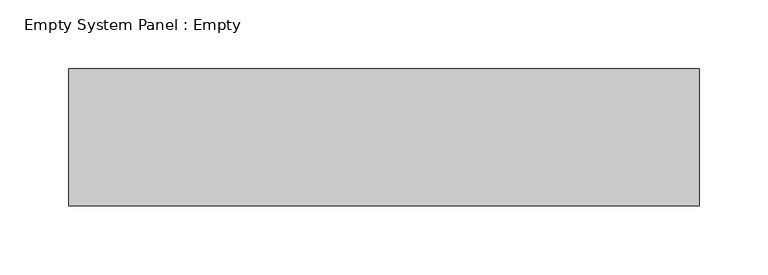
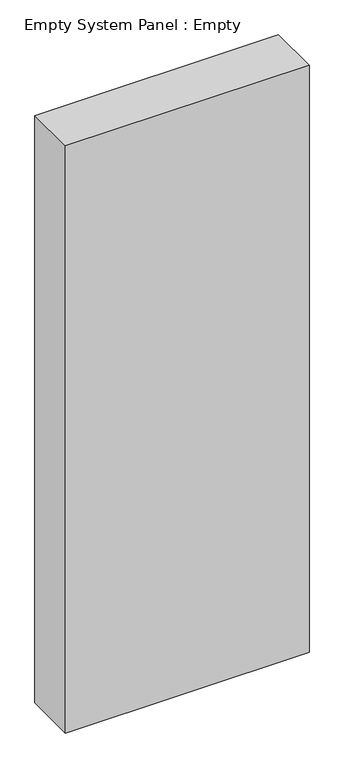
"""IFC4 building model written with IfcOpenShell, lengths in millimetres: plate geometry, Empty System Panel : Empty."""

import ifcopenshell
import ifcopenshell.guid

model = None  # the IFC model being written
_history = None  # IfcOwnerHistory: only IFC2X3 demands one
_inside = {}  # id of a spatial element -> (the spatial element, [elements in it])
_under = {}  # id of a project, library or spatial element -> (it, [spatial elements below it])
_declared = {}  # id of a project -> (the project, [libraries it declares])
_typed = {}  # id of a type object -> (the type object, [elements of that type])
_made_of = {}  # id of a material, layer set ... -> (it, [elements and type objects made of it])


def new_model(schema):
    """Start an empty IFC model of exactly this schema.

    Asked for "IFC4X3", IfcOpenShell would pick the latest addendum, in which some entities
    have other attributes; the version numbers below select the first issue.
    IFC2X3 requires an IfcOwnerHistory on every rooted entity: one is made here for all.
    """
    global model, _history
    if schema == "IFC4X3":
        model = ifcopenshell.file(schema_version=(4, 3, 0, 0))
    else:
        model = ifcopenshell.file(schema=schema)
    _inside.clear()
    _under.clear()
    _declared.clear()
    _typed.clear()
    _made_of.clear()
    _history = None
    if model.schema == "IFC2X3":
        org = make("IfcOrganization", Name="unknown")
        user = make(
            "IfcPersonAndOrganization",
            ThePerson=make("IfcPerson", FamilyName="unknown"),
            TheOrganization=org,
        )
        app = make(
            "IfcApplication",
            ApplicationDeveloper=org,
            Version="unknown",
            ApplicationFullName="unknown",
            ApplicationIdentifier="unknown",
        )
        _history = make(
            "IfcOwnerHistory",
            OwningUser=user,
            OwningApplication=app,
            ChangeAction="ADDED",
            CreationDate=0,
        )
    return model


def make(cls, **values):
    """One entity of the class cls with the attributes given. An attribute that is None is left unset."""
    return model.create_entity(
        cls, **{name: value for name, value in values.items() if value is not None}
    )


def rooted(cls, **values):
    """An entity with a GlobalId (a new one), such as an element, a storey or a relation."""
    return make(cls, GlobalId=ifcopenshell.guid.new(), OwnerHistory=_history, **values)


def si_unit(unit_type, name, prefix=None):
    """IfcSIUnit, for example si_unit("LENGTHUNIT", "METRE", prefix="MILLI")."""
    return make("IfcSIUnit", UnitType=unit_type, Prefix=prefix, Name=name)


def assignment(units):
    """IfcUnitAssignment: the units of a project."""
    return None if units is None else make("IfcUnitAssignment", Units=units)


def point(xyz):
    """IfcCartesianPoint."""
    return None if xyz is None else make("IfcCartesianPoint", Coordinates=xyz)


def direction(xyz):
    """IfcDirection."""
    return None if xyz is None else make("IfcDirection", DirectionRatios=xyz)


def frame(location, z_axis=None, x_axis=None):
    """IfcAxis2Placement3D, a coordinate frame: its origin and axes. An axis left out is left unset."""
    return make(
        "IfcAxis2Placement3D",
        Location=point(location),
        Axis=direction(z_axis),
        RefDirection=direction(x_axis),
    )


def origin():
    """The frame at (0, 0, 0) with its axes left unset."""
    return frame((0.0, 0.0, 0.0))


def origin_with_axes():
    """The frame at (0, 0, 0) with the z axis (0, 0, 1) and the x axis (1, 0, 0) written out."""
    return frame((0.0, 0.0, 0.0), z_axis=(0.0, 0.0, 1.0), x_axis=(1.0, 0.0, 0.0))


def place(relative_to, where):
    """IfcLocalPlacement: puts the frame where relative to a parent placement (None: the world)."""
    return make(
        "IfcLocalPlacement", PlacementRelTo=relative_to, RelativePlacement=where
    )


def context(
    kind, dimensions, precision=None, world=None, true_north=None, identifier=None
):
    """IfcGeometricRepresentationContext, for example the 3D "Model" context."""
    return make(
        "IfcGeometricRepresentationContext",
        ContextIdentifier=identifier,
        ContextType=kind,
        CoordinateSpaceDimension=dimensions,
        Precision=precision,
        WorldCoordinateSystem=world,
        TrueNorth=true_north,
    )


def project(units=None, contexts=None):
    """IfcProject with its units and contexts."""
    return rooted(
        "IfcProject",
        Name="project",
        RepresentationContexts=contexts,
        UnitsInContext=assignment(units),
    )


def spatial(cls, under=None, at=None, **own):
    """A site, building, storey or space (cls), placed at a placement, below another one or the project."""
    s = rooted(cls, ObjectPlacement=at, **own)
    if under is not None:
        _under.setdefault(under.id(), (under, []))[1].append(s)
    return s


def polyline(points):
    """IfcPolyline through the points."""
    return make("IfcPolyline", Points=[point(p) for p in points])


def outline(outer, holes=None, kind="AREA"):
    """IfcArbitraryClosedProfileDef: a profile drawn as a closed curve; with holes, ...WithVoids."""
    if holes is None:
        return make("IfcArbitraryClosedProfileDef", ProfileType=kind, OuterCurve=outer)
    return make(
        "IfcArbitraryProfileDefWithVoids",
        ProfileType=kind,
        OuterCurve=outer,
        InnerCurves=holes,
    )


def extrude(swept, where, along, depth):
    """IfcExtrudedAreaSolid: the profile swept, set in the frame where, extruded along a direction by depth."""
    return make(
        "IfcExtrudedAreaSolid",
        SweptArea=swept,
        Position=where,
        ExtrudedDirection=direction(along),
        Depth=depth,
    )


def shape(context_of_items, identifier, shape_type, items):
    """IfcShapeRepresentation: the items that make up one representation, for example the "Body"."""
    return make(
        "IfcShapeRepresentation",
        ContextOfItems=context_of_items,
        RepresentationIdentifier=identifier,
        RepresentationType=shape_type,
        Items=items,
    )


def source(mapping_origin, context_of_items, identifier, shape_type, items):
    """IfcRepresentationMap: a shape defined once, which mapped items show again and again."""
    return make(
        "IfcRepresentationMap",
        MappingOrigin=mapping_origin,
        MappedRepresentation=shape(context_of_items, identifier, shape_type, items),
    )


def transform(
    local_origin,
    x_axis=None,
    y_axis=None,
    z_axis=None,
    scale=None,
    scale2=None,
    scale3=None,
    uniform=True,
):
    """IfcCartesianTransformationOperator3D, or its non-uniform kind. x_axis, y_axis, z_axis: its Axis1, 2, 3."""
    if uniform:
        return make(
            "IfcCartesianTransformationOperator3D",
            Axis1=direction(x_axis),
            Axis2=direction(y_axis),
            LocalOrigin=point(local_origin),
            Scale=scale,
            Axis3=direction(z_axis),
        )
    return make(
        "IfcCartesianTransformationOperator3DnonUniform",
        Axis1=direction(x_axis),
        Axis2=direction(y_axis),
        LocalOrigin=point(local_origin),
        Scale=scale,
        Axis3=direction(z_axis),
        Scale2=scale2,
        Scale3=scale3,
    )


def mapped(mapping_source, mapping_target):
    """IfcMappedItem: shows the shape of a source again, moved by a transform."""
    return make(
        "IfcMappedItem", MappingSource=mapping_source, MappingTarget=mapping_target
    )


def made_of(thing, what):
    """Note that an element or type object is made of a material, layer set ...; save() writes the relation."""
    if what is not None:
        _made_of.setdefault(what.id(), (what, []))[1].append(thing)
    return thing


def element(
    cls,
    number,
    at=None,
    inside=None,
    cuts=None,
    type_object=None,
    material=None,
    context=None,
    identifier="Body",
    shape_type=None,
    held_by="IfcProductDefinitionShape",
    body=None,
    shapes=None,
    **own,
):
    """One element of the class cls, such as IfcWall. Its Tag is "e" and its number.

    at: its placement. inside: the storey or other place that contains it. cuts: it is an
    opening in that element (IfcRelVoidsElement). A single representation is given by context,
    identifier, shape_type and body (its items); several are given by shapes. held_by: the class
    of the entity that holds the representations. save() writes the other relations.
    """
    e = rooted(cls, Tag="e%d" % number, ObjectPlacement=at, **own)
    if body is not None:
        shapes = [shape(context, identifier, shape_type, body)]
    if shapes is not None:
        e.Representation = make(held_by, Representations=shapes)
    if inside is not None:
        _inside.setdefault(inside.id(), (inside, []))[1].append(e)
    if cuts is not None:
        rooted(
            "IfcRelVoidsElement", RelatingBuildingElement=cuts, RelatedOpeningElement=e
        )
    if type_object is not None:
        _typed.setdefault(type_object.id(), (type_object, []))[1].append(e)
    return made_of(e, material)


def aggregate(whole, parts):
    """IfcRelAggregates: a whole, such as a stair, and the parts it consists of."""
    return rooted("IfcRelAggregates", RelatingObject=whole, RelatedObjects=parts)


def save(model, path):
    """Write the relations noted so far, then the file.

    IfcRelAggregates (storeys below a building ...), IfcRelContainedInSpatialStructure (elements
    in a storey), IfcRelDefinesByType, IfcRelAssociatesMaterial and IfcRelDeclares: one each for
    every whole, place, type object, material and project.
    """
    for whole, parts in _under.values():
        aggregate(whole, parts)
    for where, things in _inside.values():
        rooted(
            "IfcRelContainedInSpatialStructure",
            RelatedElements=things,
            RelatingStructure=where,
        )
    for kind, things in _typed.values():
        rooted("IfcRelDefinesByType", RelatedObjects=things, RelatingType=kind)
    for what, things in _made_of.values():
        rooted("IfcRelAssociatesMaterial", RelatedObjects=things, RelatingMaterial=what)
    for by, libraries in _declared.values():
        rooted("IfcRelDeclares", RelatingContext=by, RelatedDefinitions=libraries)
    model.write(path)


def empty_system_panel_empty_f7b915c9(model_context):
    return source(origin(), model_context, "Body", "SweptSolid", [
        extrude(outline(polyline([(230.0, -50.0), (-230.0, -50.0), (-230.0, 50.0), (230.0, 50.0), (230.0, -50.0)])), origin_with_axes(), (0.0, 0.0, 1.0), 1172.5),
    ])


if __name__ == "__main__":
    model = new_model("IFC4")
    model_context = context("Model", 3, world=origin())
    ifc_project = project(units=[si_unit("LENGTHUNIT", "METRE", prefix="MILLI")], contexts=[model_context])
    site = spatial("IfcSite", under=ifc_project)
    building = spatial("IfcBuilding", under=site)
    placement = place(None, origin())
    empty_system_panel_empty_shape = empty_system_panel_empty_f7b915c9(model_context)
    element("IfcPlate", 1, ObjectType="Empty System Panel : Empty", at=placement, inside=building, context=model_context, shape_type="MappedRepresentation", body=[
        mapped(empty_system_panel_empty_shape, transform((0.0, 0.0, 0.0), x_axis=(1.0, 0.0, 0.0), y_axis=(0.0, 1.0, 0.0), z_axis=(0.0, 0.0, 1.0))),
    ])
    save(model, "model.ifc")
